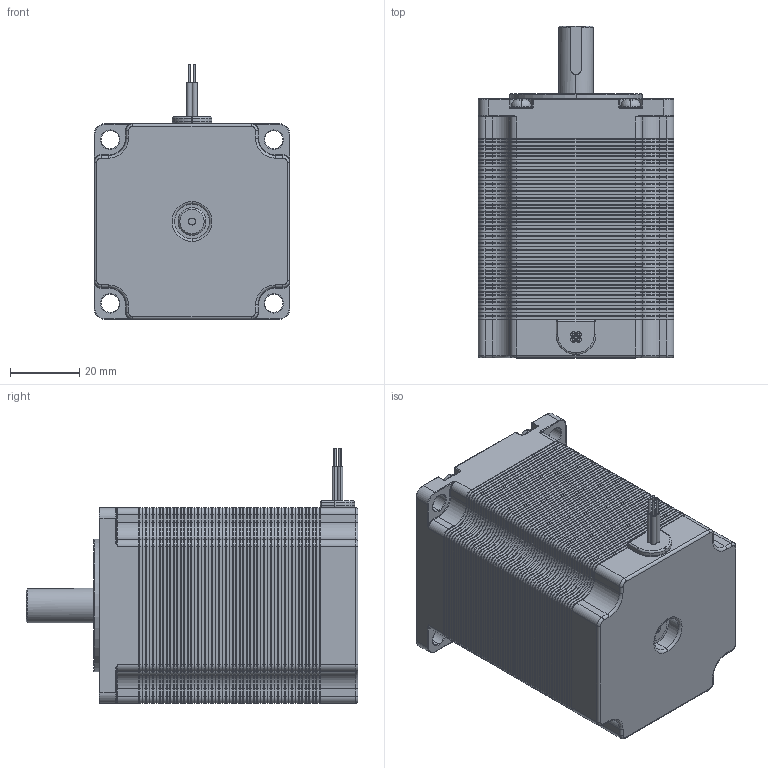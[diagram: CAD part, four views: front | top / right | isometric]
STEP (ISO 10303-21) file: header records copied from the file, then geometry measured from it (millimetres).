
FILE_DESCRIPTION (( 'STEP AP214' ), '1' );
FILE_NAME ('Nema 23 Stepper Motor length 76mm_10mm_key.STEP', '2020-11-11T14:33:47', ( 'Moofasta' ), ( '' ), 'SwSTEP 2.0', 'SolidWorks 2020', '' );
FILE_SCHEMA (( 'AUTOMOTIVE_DESIGN' ));
Length unit declared in the file: millimetre
Products named in the file (1): Nema 23 Stepper Motor length 76mm_10mm_key
Bounding box: 56.3 x 95.5 x 73.3 mm (x, y, z)
Volume: 216177.9 mm3; surface area: 325147.6 mm2
Topology: 68 solids, 68 shells, 4326 faces, 9837 edges, 5633 vertices
Faces by surface type: plane 2149, cone 1276, cylinder 787, torus 94, sphere 12, bspline 8
Entity records: 162764 total; most frequent: DIRECTION 21374, CARTESIAN_POINT 20257, ORIENTED_EDGE 19634, EDGE_CURVE 9817, AXIS2_PLACEMENT_3D 7314, VECTOR 6746, LINE 6746, VERTEX_POINT 5633
